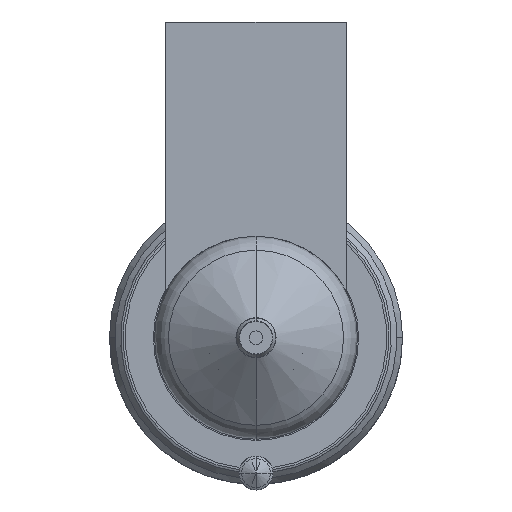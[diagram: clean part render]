
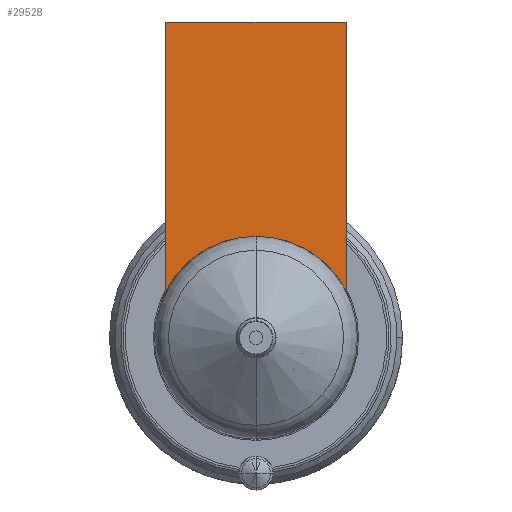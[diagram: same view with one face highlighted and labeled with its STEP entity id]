
A CAD part, front view. The second image highlights one B-rep face of the part: STEP entity #29528.
In plain terms, the highlighted planar face has unit normal (0, -1, 0).
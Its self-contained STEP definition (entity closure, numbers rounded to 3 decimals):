
#28881=DIRECTION('',(1.,0.,0.));
#28882=VECTOR('',#28881,16.);
#28883=CARTESIAN_POINT('',(-8.,-54.,28.));
#28884=LINE('',#28883,#28882);
#28889=CARTESIAN_POINT('',(0.,-54.,0.));
#28890=DIRECTION('',(0.,-1.,0.));
#28891=DIRECTION('',(0.889,0.,0.458));
#28892=AXIS2_PLACEMENT_3D('',#28889,#28890,#28891);
#28897=CARTESIAN_POINT('',(0.,-54.,0.));
#28898=DIRECTION('',(0.,-1.,0.));
#28899=DIRECTION('',(0.,0.,1.));
#28900=AXIS2_PLACEMENT_3D('',#28897,#28898,#28899);
#28926=DIRECTION('',(0.,0.,-1.));
#28927=VECTOR('',#28926,23.877);
#28928=CARTESIAN_POINT('',(-8.,-54.,28.));
#28929=LINE('',#28928,#28927);
#29400=DIRECTION('',(0.,0.,-1.));
#29401=VECTOR('',#29400,23.877);
#29402=CARTESIAN_POINT('',(8.,-54.,28.));
#29403=LINE('',#29402,#29401);
#29453=CARTESIAN_POINT('',(-8.,-54.,28.));
#29454=VERTEX_POINT('',#29453);
#29459=CARTESIAN_POINT('',(8.,-54.,28.));
#29460=VERTEX_POINT('',#29459);
#29463=CARTESIAN_POINT('',(-8.,-54.,4.123));
#29464=VERTEX_POINT('',#29463);
#29467=CARTESIAN_POINT('',(8.,-54.,4.123));
#29468=VERTEX_POINT('',#29467);
#29509=CARTESIAN_POINT('',(0.,-54.,9.));
#29510=VERTEX_POINT('',#29509);
#29511=CARTESIAN_POINT('',(0.,-54.,9.));
#29512=DIRECTION('',(0.,1.,0.));
#29513=DIRECTION('',(0.,0.,-1.));
#29514=AXIS2_PLACEMENT_3D('',#29511,#29512,#29513);
#29515=PLANE('',#29514);
#29517=ORIENTED_EDGE('',*,*,#29516,.F.);
#29519=ORIENTED_EDGE('',*,*,#29518,.T.);
#29521=ORIENTED_EDGE('',*,*,#29520,.T.);
#29523=ORIENTED_EDGE('',*,*,#29522,.T.);
#29525=ORIENTED_EDGE('',*,*,#29524,.T.);
#29526=EDGE_LOOP('',(#29517,#29519,#29521,#29523,#29525));
#29527=FACE_OUTER_BOUND('',#29526,.F.);
#29528=ADVANCED_FACE('',(#29527),#29515,.F.);
#28893=CIRCLE('',#28892,9.);
#28901=CIRCLE('',#28900,9.);
#29516=EDGE_CURVE('',#29454,#29464,#28929,.T.);
#29518=EDGE_CURVE('',#29454,#29460,#28884,.T.);
#29520=EDGE_CURVE('',#29460,#29468,#29403,.T.);
#29522=EDGE_CURVE('',#29468,#29510,#28893,.T.);
#29524=EDGE_CURVE('',#29510,#29464,#28901,.T.);
